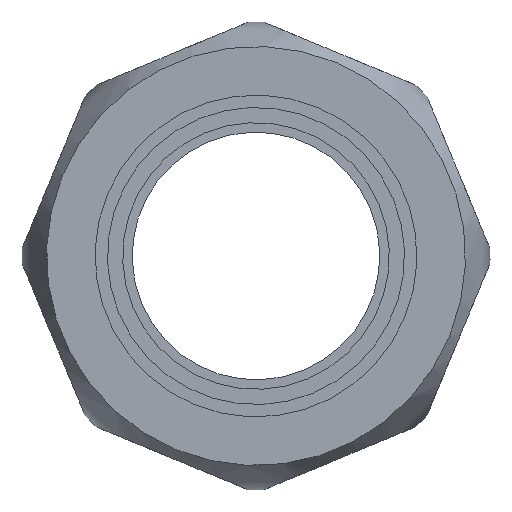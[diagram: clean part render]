
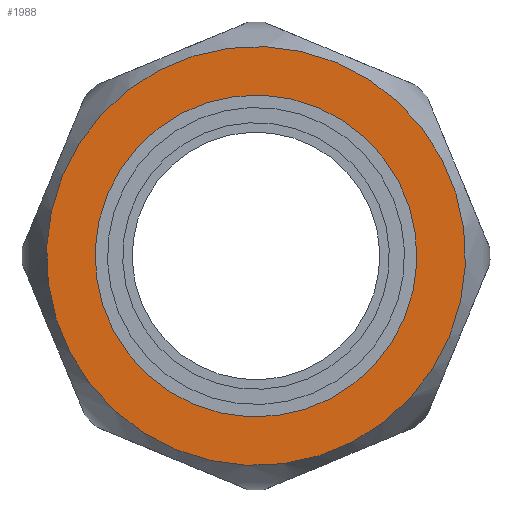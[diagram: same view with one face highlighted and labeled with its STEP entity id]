
A CAD part, left-side view. The second image highlights one B-rep face of the part: STEP entity #1988.
In plain terms, the highlighted planar face has unit normal (-1, 0, 0) as drawn and (1, 0, 0) by its records, which use the part's own axes.
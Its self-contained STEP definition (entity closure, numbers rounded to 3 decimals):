
#1954=CARTESIAN_POINT('',(18.0,22.0,0.0));
#1955=VERTEX_POINT('',#1954);
#1956=CARTESIAN_POINT('',(18.0,0.0,0.0));
#1957=DIRECTION('',(1.0,0.0,0.0));
#1958=DIRECTION('',(0.0,1.0,0.0));
#1959=AXIS2_PLACEMENT_3D('',#1956,#1957,#1958);
#1960=CIRCLE('',#1959,22.0);
#1961=EDGE_CURVE('',#1955,#1955,#1960,.T.);
#1969=CARTESIAN_POINT('',(18.0,19.45,0.0));
#1970=DIRECTION('',(1.0,0.0,0.0));
#1971=DIRECTION('',(0.0,0.0,-1.0));
#1972=AXIS2_PLACEMENT_3D('',#1969,#1970,#1971);
#1973=PLANE('',#1972);
#1974=ORIENTED_EDGE('',*,*,#1961,.T.);
#1975=EDGE_LOOP('',(#1974));
#1976=FACE_OUTER_BOUND('',#1975,.T.);
#1977=CARTESIAN_POINT('',(18.,16.9,0.0));
#1978=VERTEX_POINT('',#1977);
#1979=CARTESIAN_POINT('',(18.,0.0,0.0));
#1980=DIRECTION('',(1.0,0.0,0.0));
#1981=DIRECTION('',(0.0,1.0,0.0));
#1982=AXIS2_PLACEMENT_3D('',#1979,#1980,#1981);
#1983=CIRCLE('',#1982,16.9);
#1984=EDGE_CURVE('',#1978,#1978,#1983,.T.);
#1985=ORIENTED_EDGE('',*,*,#1984,.F.);
#1986=EDGE_LOOP('',(#1985));
#1987=FACE_BOUND('',#1986,.T.);
#1988=ADVANCED_FACE('',(#1976,#1987),#1973,.T.);
